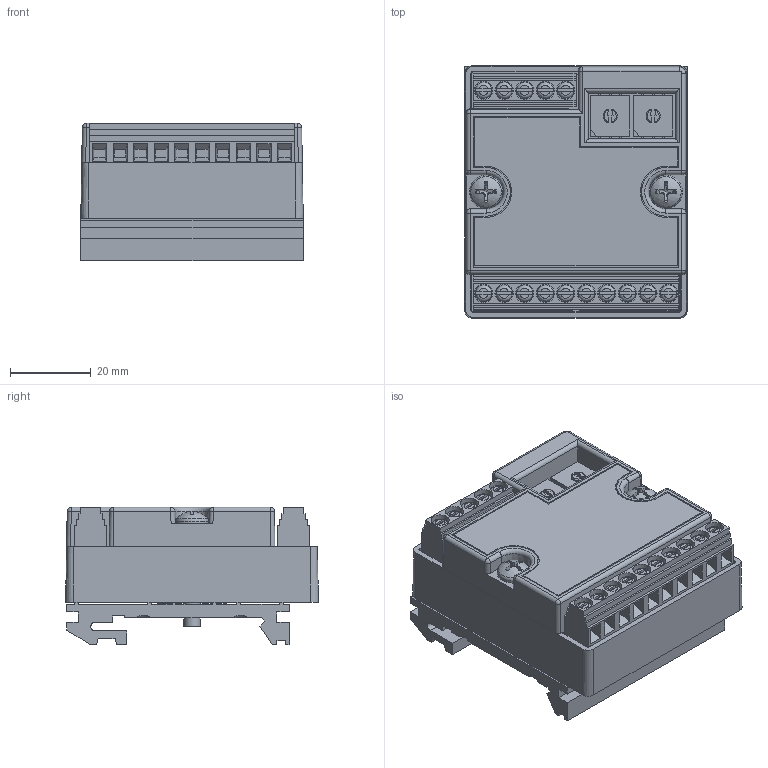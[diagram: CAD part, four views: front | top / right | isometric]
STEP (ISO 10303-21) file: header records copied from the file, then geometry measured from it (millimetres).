
FILE_DESCRIPTION((''),'2;1');
FILE_NAME('C:\TurckZip\FDN20-4S-4XSG-DIN.stp','2007-02-05T14:19:57',('IKOROL'),(''),'Autodesk Inventor 11','Autodesk Inventor 11','');
FILE_SCHEMA(('AUTOMOTIVE_DESIGN { 1 0 10303 214 1 1 1 1 }'));
Length unit declared in the file: millimetre
Products named in the file (1): Part2
Bounding box: 55 x 62.48 x 33.95 mm (x, y, z)
Volume: 53026.9 mm3; surface area: 48792.3 mm2
Topology: 1 solids, 5 shells, 1599 faces, 4206 edges, 2635 vertices
Faces by surface type: plane 1259, cone 142, cylinder 137, torus 43, sphere 13, bspline 5
Full cylindrical faces by diameter (mm): 1.15 x4, 1.4 x20, 2 x15, 2.75 x15, 2.845 x3, 3 x3, 4 x15, 4.166 x4, 4.5 x15, 8.179 x2, 18.5 x2, 18.6 x1, 18.75 x1
Entity records: 49066 total; most frequent: CARTESIAN_POINT 10567, ORIENTED_EDGE 8000, DIRECTION 7578, EDGE_CURVE 4000, VECTOR 2936, LINE 2936, VERTEX_POINT 2598, AXIS2_PLACEMENT_3D 2321
